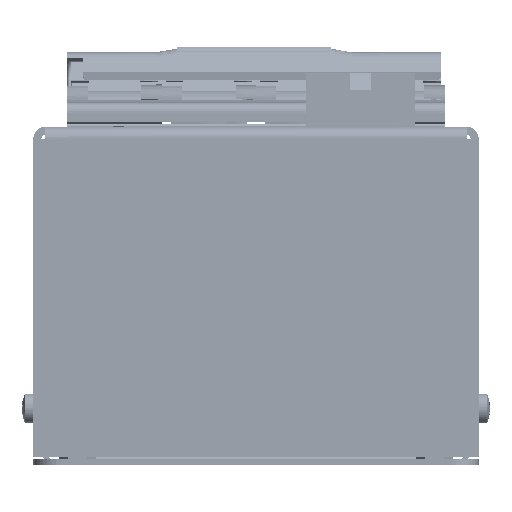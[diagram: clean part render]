
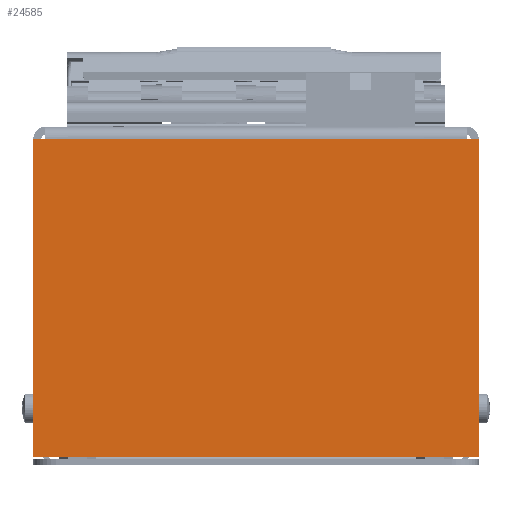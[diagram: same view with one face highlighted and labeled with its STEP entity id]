
A CAD part, front view. The second image highlights one B-rep face of the part: STEP entity #24585.
In plain terms, the highlighted planar face has unit normal (0, -1, 0).
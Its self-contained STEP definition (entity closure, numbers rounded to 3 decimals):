
#2726 = EDGE_CURVE ( 'NONE', #34161, #132356, #143419, .T. ) ;
#2763 = LINE ( 'NONE', #117487, #38139 ) ;
#3408 = LINE ( 'NONE', #194184, #44187 ) ;
#4886 = LINE ( 'NONE', #197536, #70255 ) ;
#7842 = ORIENTED_EDGE ( 'NONE', *, *, #41398, .T. ) ;
#8953 = EDGE_CURVE ( 'NONE', #200368, #182289, #2763, .T. ) ;
#17583 = VERTEX_POINT ( 'NONE', #208556 ) ;
#18568 = AXIS2_PLACEMENT_3D ( 'NONE', #218568, #172943, #67873 ) ;
#23621 = CARTESIAN_POINT ( 'NONE',  ( 83., -189., -61.5 ) ) ;
#24585 = ADVANCED_FACE ( 'NONE', ( #211044 ), #63250, .F. ) ;
#34161 = VERTEX_POINT ( 'NONE', #191884 ) ;
#38139 = VECTOR ( 'NONE', #169282, 1000. ) ;
#41398 = EDGE_CURVE ( 'NONE', #118623, #182289, #4886, .T. ) ;
#44187 = VECTOR ( 'NONE', #157667, 1000. ) ;
#55268 = ORIENTED_EDGE ( 'NONE', *, *, #2726, .F. ) ;
#61604 = CARTESIAN_POINT ( 'NONE',  ( 83., -189., -2.2 ) ) ;
#63250 = PLANE ( 'NONE',  #18568 ) ;
#67052 = EDGE_CURVE ( 'NONE', #17583, #34161, #131451, .T. ) ;
#67873 = DIRECTION ( 'NONE',  ( 0., 0., 1. ) ) ;
#70255 = VECTOR ( 'NONE', #107770, 1000. ) ;
#79672 = VECTOR ( 'NONE', #224358, 1000. ) ;
#94456 = VECTOR ( 'NONE', #188009, 1000. ) ;
#103464 = CARTESIAN_POINT ( 'NONE',  ( 83., -189., -2.2 ) ) ;
#107770 = DIRECTION ( 'NONE',  ( 1., 0., 0. ) ) ;
#108542 = LINE ( 'NONE', #162821, #198294 ) ;
#110482 = ORIENTED_EDGE ( 'NONE', *, *, #141748, .F. ) ;
#117487 = CARTESIAN_POINT ( 'NONE',  ( 83., -189., -61.5 ) ) ;
#118623 = VERTEX_POINT ( 'NONE', #120289 ) ;
#120289 = CARTESIAN_POINT ( 'NONE',  ( 0., -189., -61.5 ) ) ;
#131451 = LINE ( 'NONE', #188580, #79672 ) ;
#132356 = VERTEX_POINT ( 'NONE', #213151 ) ;
#141748 = EDGE_CURVE ( 'NONE', #132356, #200368, #108542, .T. ) ;
#143419 = LINE ( 'NONE', #103464, #94456 ) ;
#146111 = ORIENTED_EDGE ( 'NONE', *, *, #8953, .F. ) ;
#157667 = DIRECTION ( 'NONE',  ( 0., 0., -1. ) ) ;
#162821 = CARTESIAN_POINT ( 'NONE',  ( -59.319, -189., -2.2 ) ) ;
#167027 = ORIENTED_EDGE ( 'NONE', *, *, #201443, .T. ) ;
#169282 = DIRECTION ( 'NONE',  ( 0., 0., -1. ) ) ;
#172943 = DIRECTION ( 'NONE',  ( 0., 1., 0. ) ) ;
#179752 = EDGE_LOOP ( 'NONE', ( #7842, #146111, #110482, #55268, #192459, #167027 ) ) ;
#182289 = VERTEX_POINT ( 'NONE', #23621 ) ;
#188009 = DIRECTION ( 'NONE',  ( 1., 0., 0. ) ) ;
#188580 = CARTESIAN_POINT ( 'NONE',  ( -59.319, -189., -2.2 ) ) ;
#191884 = CARTESIAN_POINT ( 'NONE',  ( 2.207, -189., -2.2 ) ) ;
#192459 = ORIENTED_EDGE ( 'NONE', *, *, #67052, .F. ) ;
#194184 = CARTESIAN_POINT ( 'NONE',  ( 0., -189., -61.5 ) ) ;
#197536 = CARTESIAN_POINT ( 'NONE',  ( 0., -189., -61.5 ) ) ;
#198294 = VECTOR ( 'NONE', #198550, 1000. ) ;
#198550 = DIRECTION ( 'NONE',  ( 1., 0., 0. ) ) ;
#200368 = VERTEX_POINT ( 'NONE', #61604 ) ;
#201443 = EDGE_CURVE ( 'NONE', #17583, #118623, #3408, .T. ) ;
#208556 = CARTESIAN_POINT ( 'NONE',  ( 0., -189., -2.2 ) ) ;
#211044 = FACE_OUTER_BOUND ( 'NONE', #179752, .T. ) ;
#213151 = CARTESIAN_POINT ( 'NONE',  ( 80.793, -189., -2.2 ) ) ;
#218568 = CARTESIAN_POINT ( 'NONE',  ( 0., -189., -1.5 ) ) ;
#224358 = DIRECTION ( 'NONE',  ( 1., 0., 0. ) ) ;
